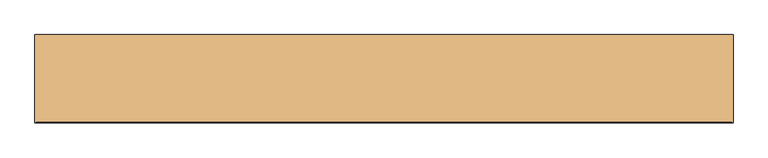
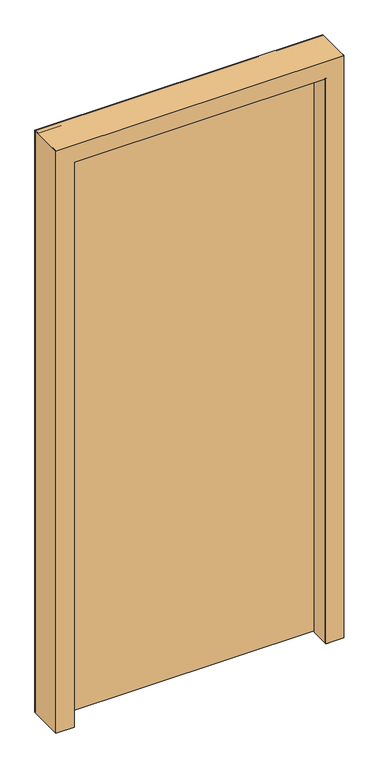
"""IFC4 building model written with IfcOpenShell, lengths in millimetres: door geometry, PUERTA SEGURIDAD SIMPLE : P600_A(90*220) RF120."""

from ifc_helpers import new_model, si_unit, frame, origin, place, context, project, spatial, polyline, circle_curve, ellipse_curve, outline, extrude, faceted_brep, source, transform, mapped, element, save
from ifc_brep_helpers import plane_surface, cylinder_surface, advanced_brep


def door_90f4172a(model_context):
    return source(origin(), model_context, "Body", "SolidModel", [
        faceted_brep([(-515.0, 55.0, 0.0), (-475.0, 55.0, 0.0), (-475.0, -5.0, 0.0), (-450.0, -5.0, 0.0), (-450.0, -75.0, 0.0), (-515.0, -75.0, 0.0), (-515.0, -75.0, 2200.0), (-515.0, 55.0, 2200.0), (-450.0, -75.0, 2135.0), (450.0, -75.0, 2135.0), (450.0, -75.0, 0.0), (515.0, -75.0, 0.0), (515.0, -75.0, 2200.0), (-450.0, -5.0, 2135.0), (-475.0, -5.0, 2160.0), (475.0, -5.0, 2160.0), (475.0, -5.0, 0.0), (450.0, -5.0, 0.0), (450.0, -5.0, 2135.0), (-475.0, 55.0, 2160.0), (515.0, 55.0, 2200.0), (515.0, 55.0, 0.0), (475.0, 55.0, 0.0), (475.0, 55.0, 2160.0)], [[[0, 1, 2, 3, 4, 5]], [[5, 6, 7, 0]], [[4, 8, 9, 10, 11, 12, 6, 5]], [[3, 13, 8, 4]], [[2, 14, 15, 16, 17, 18, 13, 3]], [[1, 19, 14, 2]], [[0, 7, 20, 21, 22, 23, 19, 1]], [[21, 11, 10, 17, 16, 22]], [[23, 22, 16, 15]], [[18, 17, 10, 9]], [[12, 11, 21, 20]], [[6, 12, 20, 7]], [[13, 18, 9, 8]], [[19, 23, 15, 14]]]),
        extrude(outline(polyline([(-461.1816871, -3.0), (-470.7, 55.0), (470.7408887, 55.0), (460.9636767, -3.0), (-461.1816871, -3.0)])), frame((0.0, 0.0, 5.0), z_axis=(0.0, 0.0, 1.0), x_axis=(1.0, 0.0, 0.0)), (0.0, 0.0, 1.0), 2150.0),
        advanced_brep(
        [(-515.0, -55.0, 0.0), (-513.0, -55.0, 0.0), (-513.0, -73.0, 0.0), (-452.0, -73.0, 0.0), (-452.0, -7.0, 0.0), (-474.7, -7.0, 0.0), (-477.0, -4.7, 0.0), (-477.0, 53.0, 0.0), (-513.0, 53.0, 0.0), (-513.0, 35.6695066, 0.0), (-515.0, 35.6695066, 0.0), (-515.0, 52.7, 0.0), (-512.7, 55.0, 0.0), (-477.3, 55.0, 0.0), (-475.0, 52.7, 0.0), (-475.0, -5.0, 0.0), (-452.3, -5.0, 0.0), (-450.0, -7.3, 0.0), (-450.0, -72.7, 0.0), (-452.3, -75.0, 0.0), (-512.7, -75.0, 0.0), (-515.0, -72.7, 0.0), (-515.0, -72.7, 2200.0), (-515.0, -55.0, 2200.0), (-512.7, -75.0, 2197.7), (-452.3, -75.0, 2137.3), (452.3, -75.0, 2137.3), (452.3, -75.0, 0.0), (512.7, -75.0, 0.0), (512.7, -75.0, 2197.7), (-450.0, -72.7, 2135.0), (-450.0, -7.3, 2135.0), (-452.3, -5.0, 2137.3), (-475.0, -5.0, 2160.0), (475.0, -5.0, 2160.0), (475.0, -5.0, 0.0), (452.3, -5.0, 0.0), (452.3, -5.0, 2137.3), (-475.0, 52.7, 2160.0), (-477.3, 55.0, 2162.3), (-512.7, 55.0, 2197.7), (512.7, 55.0, 2197.7), (512.7, 55.0, 0.0), (477.3, 55.0, 0.0), (477.3, 55.0, 2162.3), (-515.0, 52.7, 2200.0), (-515.0, 35.6695066, 2200.0), (-513.0, 35.6695066, 2198.0), (513.0, 35.6695066, 2198.0), (513.0, 35.6695066, 0.0), (515.0, 35.6695066, 0.0), (515.0, 35.6695066, 2200.0), (-513.0, 53.0, 2198.0), (-477.0, 53.0, 2162.0), (477.0, 53.0, 2162.0), (477.0, 53.0, 0.0), (513.0, 53.0, 0.0), (513.0, 53.0, 2198.0), (-477.0, -4.7, 2162.0), (-474.7, -7.0, 2159.7), (-452.0, -7.0, 2137.0), (452.0, -7.0, 2137.0), (452.0, -7.0, 0.0), (474.7, -7.0, 0.0), (474.7, -7.0, 2159.7), (-452.0, -73.0, 2137.0), (-513.0, -73.0, 2198.0), (513.0, -73.0, 2198.0), (513.0, -73.0, 0.0), (452.0, -73.0, 0.0), (452.0, -73.0, 2137.0), (-513.0, -55.0, 2198.0), (515.0, -55.0, 2200.0), (515.0, -55.0, 0.0), (513.0, -55.0, 0.0), (513.0, -55.0, 2198.0), (515.0, -72.7, 0.0), (450.0, -72.7, 0.0), (450.0, -7.3, 0.0), (475.0, 52.7, 0.0), (515.0, 52.7, 0.0), (477.0, -4.7, 0.0), (477.0, -4.7, 2162.0), (515.0, 52.7, 2200.0), (475.0, 52.7, 2160.0), (450.0, -7.3, 2135.0), (450.0, -72.7, 2135.0), (515.0, -72.7, 2200.0)],
        [
            (0, 1),
            (1, 2),
            (2, 3),
            (3, 4),
            (4, 5),
            (5, 6, circle_curve(frame((-474.7, -4.7, 0.0), z_axis=(0.0, 0.0, -1.0), x_axis=(0.0, -1.0, 0.0)), 2.3)),
            (6, 7),
            (7, 8),
            (8, 9),
            (9, 10),
            (10, 11),
            (11, 12, circle_curve(frame((-512.7, 52.7, 0.0), z_axis=(0.0, 0.0, -1.0), x_axis=(0.0, -1.0, 0.0)), 2.3)),
            (12, 13),
            (13, 14, circle_curve(frame((-477.3, 52.7, 0.0), z_axis=(0.0, 0.0, -1.0), x_axis=(0.0, -1.0, 0.0)), 2.3)),
            (14, 15),
            (15, 16),
            (16, 17, circle_curve(frame((-452.3, -7.3, 0.0), z_axis=(0.0, 0.0, -1.0), x_axis=(0.0, -1.0, 0.0)), 2.3)),
            (17, 18),
            (18, 19, circle_curve(frame((-452.3, -72.7, 0.0), z_axis=(0.0, 0.0, -1.0), x_axis=(0.0, -1.0, 0.0)), 2.3)),
            (19, 20),
            (20, 21, circle_curve(frame((-512.7, -72.7, 0.0), z_axis=(0.0, 0.0, -1.0), x_axis=(0.0, -1.0, 0.0)), 2.3)),
            (21, 0),
            (21, 22),
            (22, 23),
            (23, 0),
            (20, 24),
            (24, 22, ellipse_curve(frame((-512.7, -72.7, 2197.7), z_axis=(-0.7071067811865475, 0.0, -0.7071067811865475), x_axis=(0.7071067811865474, 0.0, -0.7071067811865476)), 3.2526912, 2.3)),
            (19, 25),
            (25, 26),
            (26, 27),
            (27, 28),
            (28, 29),
            (29, 24),
            (18, 30),
            (30, 25, ellipse_curve(frame((-452.3, -72.7, 2137.3), z_axis=(-0.7071067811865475, 0.0, -0.7071067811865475), x_axis=(0.7071067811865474, 0.0, -0.7071067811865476)), 3.2526912, 2.3)),
            (17, 31),
            (31, 30),
            (16, 32),
            (32, 31, ellipse_curve(frame((-452.3, -7.3, 2137.3), z_axis=(-0.7071067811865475, 0.0, -0.7071067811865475), x_axis=(0.7071067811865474, 0.0, -0.7071067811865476)), 3.2526912, 2.3)),
            (15, 33),
            (33, 34),
            (34, 35),
            (35, 36),
            (36, 37),
            (37, 32),
            (14, 38),
            (38, 33),
            (13, 39),
            (39, 38, ellipse_curve(frame((-477.3, 52.7, 2162.3), z_axis=(-0.7071067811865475, 0.0, -0.7071067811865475), x_axis=(0.7071067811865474, 0.0, -0.7071067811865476)), 3.2526912, 2.3)),
            (12, 40),
            (40, 41),
            (41, 42),
            (42, 43),
            (43, 44),
            (44, 39),
            (11, 45),
            (45, 40, ellipse_curve(frame((-512.7, 52.7, 2197.7), z_axis=(-0.7071067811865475, 0.0, -0.7071067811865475), x_axis=(0.7071067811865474, 0.0, -0.7071067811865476)), 3.2526912, 2.3)),
            (10, 46),
            (46, 45),
            (9, 47),
            (47, 48),
            (48, 49),
            (49, 50),
            (50, 51),
            (51, 46),
            (8, 52),
            (52, 47),
            (7, 53),
            (53, 54),
            (54, 55),
            (55, 56),
            (56, 57),
            (57, 52),
            (6, 58),
            (58, 53),
            (5, 59),
            (59, 58, ellipse_curve(frame((-474.7, -4.7, 2159.7), z_axis=(-0.7071067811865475, 0.0, -0.7071067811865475), x_axis=(0.7071067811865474, 0.0, -0.7071067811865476)), 3.2526912, 2.3)),
            (4, 60),
            (60, 61),
            (61, 62),
            (62, 63),
            (63, 64),
            (64, 59),
            (3, 65),
            (65, 60),
            (2, 66),
            (66, 67),
            (67, 68),
            (68, 69),
            (69, 70),
            (70, 65),
            (1, 71),
            (71, 66),
            (23, 72),
            (72, 73),
            (73, 74),
            (74, 75),
            (75, 71),
            (73, 76),
            (76, 28, circle_curve(frame((512.7, -72.7, 0.0), z_axis=(0.0, 0.0, -1.0), x_axis=(0.0, -1.0, 0.0)), 2.3)),
            (27, 77, circle_curve(frame((452.3, -72.7, 0.0), z_axis=(0.0, 0.0, -1.0), x_axis=(0.0, -1.0, 0.0)), 2.3)),
            (77, 78),
            (78, 36, circle_curve(frame((452.3, -7.3, 0.0), z_axis=(0.0, 0.0, -1.0), x_axis=(0.0, -1.0, 0.0)), 2.3)),
            (35, 79),
            (79, 43, circle_curve(frame((477.3, 52.7, 0.0), z_axis=(0.0, 0.0, -1.0), x_axis=(0.0, -1.0, 0.0)), 2.3)),
            (42, 80, circle_curve(frame((512.7, 52.7, 0.0), z_axis=(0.0, 0.0, -1.0), x_axis=(0.0, -1.0, 0.0)), 2.3)),
            (80, 50),
            (49, 56),
            (55, 81),
            (81, 63, circle_curve(frame((474.7, -4.7, 0.0), z_axis=(0.0, 0.0, -1.0), x_axis=(0.0, -1.0, 0.0)), 2.3)),
            (62, 69),
            (68, 74),
            (67, 75),
            (61, 70),
            (81, 82),
            (82, 64, ellipse_curve(frame((474.7, -4.7, 2159.7), z_axis=(0.7071067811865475, 0.0, -0.7071067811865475), x_axis=(0.7071067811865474, 0.0, 0.7071067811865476)), 3.2526912, 2.3)),
            (54, 82),
            (48, 57),
            (80, 83),
            (83, 51),
            (41, 83, ellipse_curve(frame((512.7, 52.7, 2197.7), z_axis=(0.7071067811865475, 0.0, -0.7071067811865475), x_axis=(0.7071067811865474, 0.0, 0.7071067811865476)), 3.2526912, 2.3)),
            (79, 84),
            (84, 44, ellipse_curve(frame((477.3, 52.7, 2162.3), z_axis=(0.7071067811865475, 0.0, -0.7071067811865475), x_axis=(0.7071067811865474, 0.0, 0.7071067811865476)), 3.2526912, 2.3)),
            (34, 84),
            (78, 85),
            (85, 37, ellipse_curve(frame((452.3, -7.3, 2137.3), z_axis=(0.7071067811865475, 0.0, -0.7071067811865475), x_axis=(0.7071067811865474, 0.0, 0.7071067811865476)), 3.2526912, 2.3)),
            (77, 86),
            (86, 85),
            (26, 86, ellipse_curve(frame((452.3, -72.7, 2137.3), z_axis=(0.7071067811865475, 0.0, -0.7071067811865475), x_axis=(0.7071067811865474, 0.0, 0.7071067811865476)), 3.2526912, 2.3)),
            (76, 87),
            (87, 29, ellipse_curve(frame((512.7, -72.7, 2197.7), z_axis=(0.7071067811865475, 0.0, -0.7071067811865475), x_axis=(0.7071067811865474, 0.0, 0.7071067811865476)), 3.2526912, 2.3)),
            (72, 87),
            (22, 87),
            (30, 86),
            (31, 85),
            (38, 84),
            (45, 83),
            (58, 82),
        ],
        [
            plane_surface(frame((-515.0, 55.0, 0.0), z_axis=(0.0, 0.0, -1.0), x_axis=(0.0, -1.0, 0.0))),
            plane_surface(frame((-515.0, -55.0, 0.0), z_axis=(-1.0, 0.0, 0.0), x_axis=(0.0, 0.0, 1.0))),
            cylinder_surface(frame((-512.7, -72.7, 0.0), z_axis=(0.0, 0.0, -1.0), x_axis=(0.0, -1.0, 0.0)), 2.3),
            plane_surface(frame((-512.7, -75.0, 0.0), z_axis=(0.0, -1.0, 0.0), x_axis=(0.0, 0.0, 1.0))),
            cylinder_surface(frame((-452.3, -72.7, 0.0), z_axis=(0.0, 0.0, -1.0), x_axis=(0.0, -1.0, 0.0)), 2.3),
            plane_surface(frame((-450.0, -72.7, 0.0), z_axis=(1.0, 0.0, 0.0), x_axis=(0.0, 0.0, 1.0))),
            cylinder_surface(frame((-452.3, -7.3, 0.0), z_axis=(0.0, 0.0, -1.0), x_axis=(0.0, -1.0, 0.0)), 2.3),
            plane_surface(frame((-452.3, -5.0, 0.0), z_axis=(0.0, 1.0, 0.0), x_axis=(0.0, 0.0, 1.0))),
            plane_surface(frame((-475.0, -5.0, 0.0), z_axis=(1.0, 0.0, 0.0), x_axis=(0.0, 0.0, 1.0))),
            cylinder_surface(frame((-477.3, 52.7, 0.0), z_axis=(0.0, 0.0, -1.0), x_axis=(0.0, -1.0, 0.0)), 2.3),
            plane_surface(frame((-477.3, 55.0, 0.0), z_axis=(0.0, 1.0, 0.0), x_axis=(0.0, 0.0, 1.0))),
            cylinder_surface(frame((-512.7, 52.7, 0.0), z_axis=(0.0, 0.0, -1.0), x_axis=(0.0, -1.0, 0.0)), 2.3),
            plane_surface(frame((-515.0, 52.7, 0.0), z_axis=(-1.0, 0.0, 0.0), x_axis=(0.0, 0.0, 1.0))),
            plane_surface(frame((-515.0, 35.6695066, 0.0), z_axis=(0.0, -1.0, 0.0), x_axis=(0.0, 0.0, 1.0))),
            plane_surface(frame((-513.0, 35.6695066, 0.0), z_axis=(1.0, 0.0, 0.0), x_axis=(0.0, 0.0, 1.0))),
            plane_surface(frame((-513.0, 53.0, 0.0), z_axis=(0.0, -1.0, 0.0), x_axis=(0.0, 0.0, 1.0))),
            plane_surface(frame((-477.0, 53.0, 0.0), z_axis=(-1.0, 0.0, 0.0), x_axis=(0.0, 0.0, 1.0))),
            cylinder_surface(frame((-474.7, -4.7, 0.0), z_axis=(0.0, 0.0, -1.0), x_axis=(0.0, -1.0, 0.0)), 2.3),
            plane_surface(frame((-474.7, -7.0, 0.0), z_axis=(0.0, -1.0, 0.0), x_axis=(0.0, 0.0, 1.0))),
            plane_surface(frame((-452.0, -7.0, 0.0), z_axis=(-1.0, 0.0, 0.0), x_axis=(0.0, 0.0, 1.0))),
            plane_surface(frame((-452.0, -73.0, 0.0), z_axis=(0.0, 1.0, 0.0), x_axis=(0.0, 0.0, 1.0))),
            plane_surface(frame((-513.0, -73.0, 0.0), z_axis=(1.0, 0.0, 0.0), x_axis=(0.0, 0.0, 1.0))),
            plane_surface(frame((-513.0, -55.0, 0.0), z_axis=(0.0, 1.0, 0.0), x_axis=(0.0, 0.0, 1.0))),
            plane_surface(frame((515.0, 55.0, 0.0), z_axis=(0.0, 0.0, -1.0), x_axis=(0.0, -1.0, 0.0))),
            plane_surface(frame((513.0, -73.0, 2198.0), z_axis=(-1.0, 0.0, 0.0), x_axis=(0.0, 0.0, -1.0))),
            plane_surface(frame((452.0, -7.0, 2137.0), z_axis=(1.0, 0.0, 0.0), x_axis=(0.0, 0.0, -1.0))),
            cylinder_surface(frame((474.7, -4.7, 2200.0), z_axis=(0.0, 0.0, 1.0), x_axis=(0.0, -1.0, 0.0)), 2.3),
            plane_surface(frame((477.0, 53.0, 2162.0), z_axis=(1.0, 0.0, 0.0), x_axis=(0.0, 0.0, -1.0))),
            plane_surface(frame((513.0, 35.6695066, 2198.0), z_axis=(-1.0, 0.0, 0.0), x_axis=(0.0, 0.0, -1.0))),
            plane_surface(frame((515.0, 52.7, 2200.0), z_axis=(1.0, 0.0, 0.0), x_axis=(0.0, 0.0, -1.0))),
            cylinder_surface(frame((512.7, 52.7, 2200.0), z_axis=(0.0, 0.0, 1.0), x_axis=(0.0, -1.0, 0.0)), 2.3),
            cylinder_surface(frame((477.3, 52.7, 2200.0), z_axis=(0.0, 0.0, 1.0), x_axis=(0.0, -1.0, 0.0)), 2.3),
            plane_surface(frame((475.0, -5.0, 2160.0), z_axis=(-1.0, 0.0, 0.0), x_axis=(0.0, 0.0, -1.0))),
            cylinder_surface(frame((452.3, -7.3, 2200.0), z_axis=(0.0, 0.0, 1.0), x_axis=(0.0, -1.0, 0.0)), 2.3),
            plane_surface(frame((450.0, -72.7, 2135.0), z_axis=(-1.0, 0.0, 0.0), x_axis=(0.0, 0.0, -1.0))),
            cylinder_surface(frame((452.3, -72.7, 2200.0), z_axis=(0.0, 0.0, 1.0), x_axis=(0.0, -1.0, 0.0)), 2.3),
            cylinder_surface(frame((512.7, -72.7, 2200.0), z_axis=(0.0, 0.0, 1.0), x_axis=(0.0, -1.0, 0.0)), 2.3),
            plane_surface(frame((515.0, -55.0, 2200.0), z_axis=(1.0, 0.0, 0.0), x_axis=(0.0, 0.0, -1.0))),
            plane_surface(frame((-515.0, -55.0, 2200.0), z_axis=(0.0, 0.0, 1.0), x_axis=(1.0, 0.0, 0.0))),
            cylinder_surface(frame((-515.0, -72.7, 2197.7), z_axis=(-1.0, 0.0, 0.0), x_axis=(0.0, -1.0, 0.0)), 2.3),
            cylinder_surface(frame((-515.0, -72.7, 2137.3), z_axis=(-1.0, 0.0, 0.0), x_axis=(0.0, -1.0, 0.0)), 2.3),
            plane_surface(frame((-450.0, -72.7, 2135.0), z_axis=(0.0, 0.0, -1.0), x_axis=(1.0, 0.0, 0.0))),
            cylinder_surface(frame((-515.0, -7.3, 2137.3), z_axis=(-1.0, 0.0, 0.0), x_axis=(0.0, -1.0, 0.0)), 2.3),
            plane_surface(frame((-475.0, -5.0, 2160.0), z_axis=(0.0, 0.0, -1.0), x_axis=(1.0, 0.0, 0.0))),
            cylinder_surface(frame((-515.0, 52.7, 2162.3), z_axis=(-1.0, 0.0, 0.0), x_axis=(0.0, -1.0, 0.0)), 2.3),
            cylinder_surface(frame((-515.0, 52.7, 2197.7), z_axis=(-1.0, 0.0, 0.0), x_axis=(0.0, -1.0, 0.0)), 2.3),
            plane_surface(frame((-515.0, 52.7, 2200.0), z_axis=(0.0, 0.0, 1.0), x_axis=(1.0, 0.0, 0.0))),
            plane_surface(frame((-513.0, 35.6695066, 2198.0), z_axis=(0.0, 0.0, -1.0), x_axis=(1.0, 0.0, 0.0))),
            plane_surface(frame((-477.0, 53.0, 2162.0), z_axis=(0.0, 0.0, 1.0), x_axis=(1.0, 0.0, 0.0))),
            cylinder_surface(frame((-515.0, -4.7, 2159.7), z_axis=(-1.0, 0.0, 0.0), x_axis=(0.0, -1.0, 0.0)), 2.3),
            plane_surface(frame((-452.0, -7.0, 2137.0), z_axis=(0.0, 0.0, 1.0), x_axis=(1.0, 0.0, 0.0))),
            plane_surface(frame((-513.0, -73.0, 2198.0), z_axis=(0.0, 0.0, -1.0), x_axis=(1.0, 0.0, 0.0))),
        ],
        [
            (0, [[1, 2, 3, 4, 5, 6, 7, 8, 9, 10, 11, 12, 13, 14, 15, 16, 17, 18, 19, 20, 21, 22]]),
            (1, [[23, 24, 25, -22]]),
            (2, [[26, 27, -23, -21]]),
            (3, [[28, 29, 30, 31, 32, 33, -26, -20]]),
            (4, [[34, 35, -28, -19]]),
            (5, [[36, 37, -34, -18]]),
            (6, [[38, 39, -36, -17]]),
            (7, [[40, 41, 42, 43, 44, 45, -38, -16]]),
            (8, [[46, 47, -40, -15]]),
            (9, [[48, 49, -46, -14]]),
            (10, [[50, 51, 52, 53, 54, 55, -48, -13]]),
            (11, [[56, 57, -50, -12]]),
            (12, [[58, 59, -56, -11]]),
            (13, [[60, 61, 62, 63, 64, 65, -58, -10]]),
            (14, [[66, 67, -60, -9]]),
            (15, [[68, 69, 70, 71, 72, 73, -66, -8]]),
            (16, [[74, 75, -68, -7]]),
            (17, [[76, 77, -74, -6]]),
            (18, [[78, 79, 80, 81, 82, 83, -76, -5]]),
            (19, [[84, 85, -78, -4]]),
            (20, [[86, 87, 88, 89, 90, 91, -84, -3]]),
            (21, [[92, 93, -86, -2]]),
            (22, [[-25, 94, 95, 96, 97, 98, -92, -1]]),
            (23, [[99, 100, -31, 101, 102, 103, -43, 104, 105, -53, 106, 107, -63, 108, -71, 109, 110, -81, 111, -89, 112, -96]]),
            (24, [[-97, -112, -88, 113]]),
            (25, [[-90, -111, -80, 114]]),
            (26, [[-82, -110, 115, 116]]),
            (27, [[-115, -109, -70, 117]]),
            (28, [[-72, -108, -62, 118]]),
            (29, [[-64, -107, 119, 120]]),
            (30, [[-119, -106, -52, 121]]),
            (31, [[-54, -105, 122, 123]]),
            (32, [[-122, -104, -42, 124]]),
            (33, [[-44, -103, 125, 126]]),
            (34, [[-125, -102, 127, 128]]),
            (35, [[-127, -101, -30, 129]]),
            (36, [[-32, -100, 130, 131]]),
            (37, [[-130, -99, -95, 132]]),
            (38, [[133, -132, -94, -24]]),
            (39, [[-33, -131, -133, -27]]),
            (40, [[134, -129, -29, -35]]),
            (41, [[135, -128, -134, -37]]),
            (42, [[-45, -126, -135, -39]]),
            (43, [[136, -124, -41, -47]]),
            (44, [[-55, -123, -136, -49]]),
            (45, [[137, -121, -51, -57]]),
            (46, [[-65, -120, -137, -59]]),
            (47, [[-73, -118, -61, -67]]),
            (48, [[138, -117, -69, -75]]),
            (49, [[-83, -116, -138, -77]]),
            (50, [[-91, -114, -79, -85]]),
            (51, [[-98, -113, -87, -93]]),
        ],
    ),
    ])


if __name__ == "__main__":
    model = new_model("IFC4")
    model_context = context("Model", 3, world=origin())
    ifc_project = project(units=[si_unit("LENGTHUNIT", "METRE", prefix="MILLI")], contexts=[model_context])
    site = spatial("IfcSite", under=ifc_project)
    building = spatial("IfcBuilding", under=site)
    placement = place(None, origin())
    door_shape = door_90f4172a(model_context)
    element("IfcDoor", 1, ObjectType="PUERTA SEGURIDAD SIMPLE : P600_A(90*220) RF120", at=placement, inside=building, context=model_context, shape_type="MappedRepresentation", body=[
        mapped(door_shape, transform((0.0, 0.0, 0.0), x_axis=(1.0, 0.0, 0.0), y_axis=(0.0, 1.0, 0.0), z_axis=(0.0, 0.0, 1.0))),
    ])
    save(model, "model.ifc")
